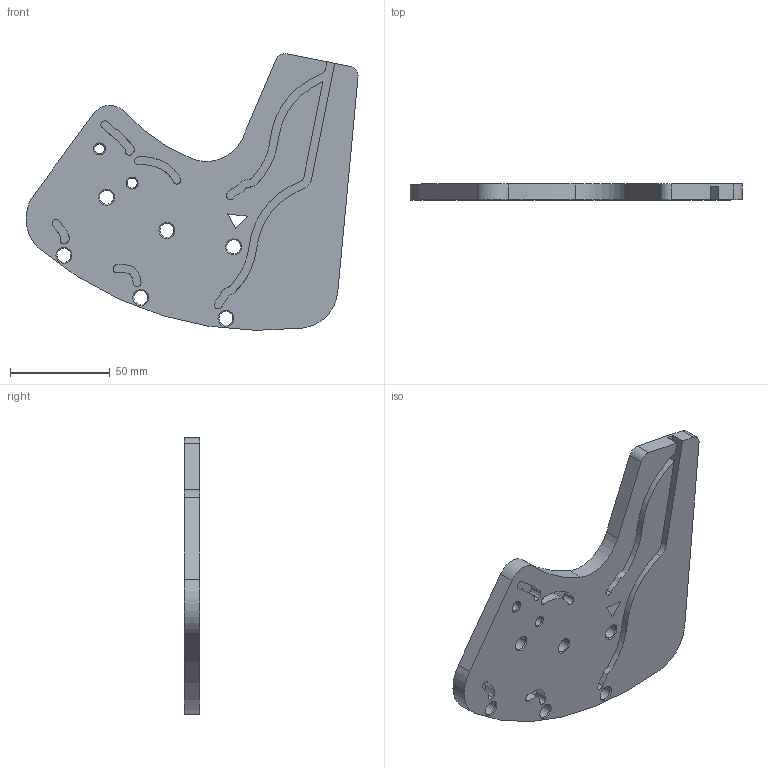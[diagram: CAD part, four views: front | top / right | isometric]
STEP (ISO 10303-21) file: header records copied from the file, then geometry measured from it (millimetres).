
FILE_DESCRIPTION(/* description */ (''),/* implementation_level */ '2;1');
FILE_NAME(/* name */ 'GETOUT_STAVE_70.stp',/* time_stamp */ '2018-10-12T17:43:35+02:00',/* author */ (''),/* organization */ (''),/* preprocessor_version */ 'ST-DEVELOPER v16.7',/* originating_system */ 'SIEMENS PLM Software NX 12.0',/* authorisation */ '');
FILE_SCHEMA (('AP203_CONFIGURATION_CONTROLLED_3D_DESIGN_OF_MECHANICAL_PARTS_AND_ASSEMBLIES_MIM_LF { 1 0 10303 403 2 1 2}'));
Length unit declared in the file: millimetre
Products named in the file (1): turc1934B35Eh6ec
Bounding box: 166.06 x 8 x 138.4 mm (x, y, z)
Volume: 108682.8 mm3; surface area: 39552.7 mm2
Topology: 1 solids, 1 shells, 352 faces, 921 edges, 610 vertices
Faces by surface type: plane 249, extrusion 58, cylinder 29, cone 16
Full cylindrical faces by diameter (mm): 5 x2, 7 x6
Entity records: 13639 total; most frequent: CARTESIAN_POINT 5748, ORIENTED_EDGE 1786, DIRECTION 1164, EDGE_CURVE 893, VERTEX_POINT 606, B_SPLINE_CURVE_WITH_KNOTS 517, EDGE_LOOP 433, VECTOR 418
